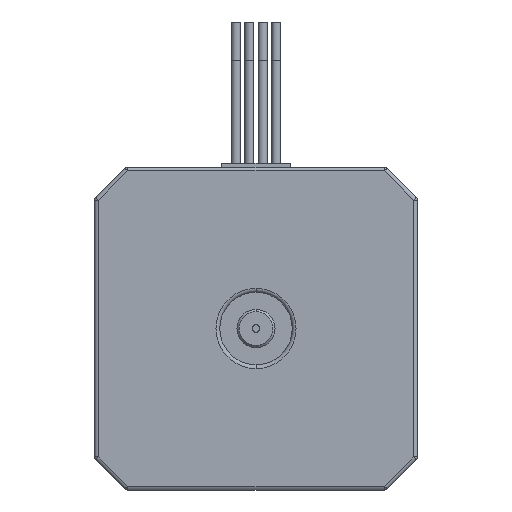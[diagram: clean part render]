
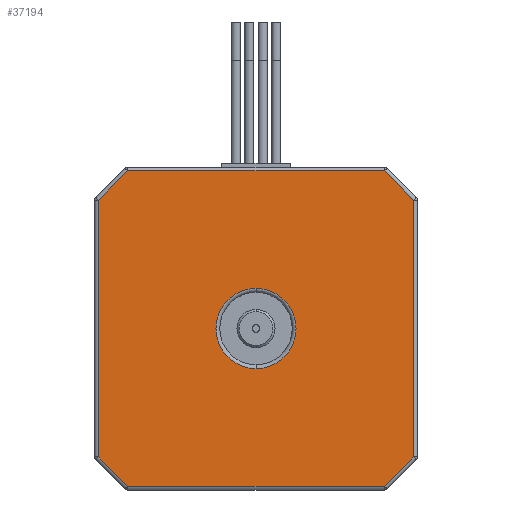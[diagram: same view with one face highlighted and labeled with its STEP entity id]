
A CAD part, front view. The second image highlights one B-rep face of the part: STEP entity #37194.
In plain terms, the highlighted planar face has unit normal (0, -1, 0).
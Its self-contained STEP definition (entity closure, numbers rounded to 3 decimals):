
#636 = VERTEX_POINT ( 'NONE', #35869 ) ;
#1260 = EDGE_CURVE ( 'NONE', #11182, #39394, #19342, .T. ) ;
#1427 = CARTESIAN_POINT ( 'NONE',  ( 20.65, 0., 17.034 ) ) ;
#2048 = CARTESIAN_POINT ( 'NONE',  ( -16.827, 0., -20.65 ) ) ;
#2157 = VERTEX_POINT ( 'NONE', #6656 ) ;
#2556 = DIRECTION ( 'NONE',  ( 0., 0., -1. ) ) ;
#2612 = DIRECTION ( 'NONE',  ( 0., 1., 0. ) ) ;
#2687 = EDGE_CURVE ( 'NONE', #35914, #18129, #23053, .T. ) ;
#2829 = DIRECTION ( 'NONE',  ( 0., 0., 1. ) ) ;
#2898 = LINE ( 'NONE', #12767, #20518 ) ;
#3031 = CARTESIAN_POINT ( 'NONE',  ( 0., 0., 20.65 ) ) ;
#4760 = CARTESIAN_POINT ( 'NONE',  ( 16.68, 0., 20.796 ) ) ;
#5192 = DIRECTION ( 'NONE',  ( -0.707, 0., 0.707 ) ) ;
#5354 = FACE_OUTER_BOUND ( 'NONE', #24848, .T. ) ;
#5749 = DIRECTION ( 'NONE',  ( 0., 1., 0. ) ) ;
#6270 = CIRCLE ( 'NONE', #12968, 5.25 ) ;
#6602 = VECTOR ( 'NONE', #5192, 1000. ) ;
#6656 = CARTESIAN_POINT ( 'NONE',  ( 16.827, 0., 20.65 ) ) ;
#6959 = CARTESIAN_POINT ( 'NONE',  ( -20.65, 0., 16.827 ) ) ;
#7164 = EDGE_LOOP ( 'NONE', ( #8519, #39343 ) ) ;
#7895 = ORIENTED_EDGE ( 'NONE', *, *, #1260, .T. ) ;
#8114 = LINE ( 'NONE', #4760, #6602 ) ;
#8519 = ORIENTED_EDGE ( 'NONE', *, *, #25021, .T. ) ;
#9673 = CARTESIAN_POINT ( 'NONE',  ( 20.65, 0., 16.827 ) ) ;
#9915 = DIRECTION ( 'NONE',  ( 0.707, 0., 0.707 ) ) ;
#9944 = EDGE_CURVE ( 'NONE', #40689, #30558, #19130, .T. ) ;
#11182 = VERTEX_POINT ( 'NONE', #2048 ) ;
#11473 = VECTOR ( 'NONE', #41062, 1000. ) ;
#12767 = CARTESIAN_POINT ( 'NONE',  ( -16.68, 0., -20.796 ) ) ;
#12779 = VERTEX_POINT ( 'NONE', #21594 ) ;
#12968 = AXIS2_PLACEMENT_3D ( 'NONE', #27960, #2612, #34429 ) ;
#13063 = LINE ( 'NONE', #22291, #18827 ) ;
#13107 = ORIENTED_EDGE ( 'NONE', *, *, #2687, .T. ) ;
#13108 = CARTESIAN_POINT ( 'NONE',  ( 16.827, 0., -20.65 ) ) ;
#13173 = EDGE_CURVE ( 'NONE', #18129, #2157, #8114, .T. ) ;
#13201 = LINE ( 'NONE', #31997, #34862 ) ;
#13632 = DIRECTION ( 'NONE',  ( -0.707, 0., -0.707 ) ) ;
#13861 = ORIENTED_EDGE ( 'NONE', *, *, #9944, .T. ) ;
#14479 = CARTESIAN_POINT ( 'NONE',  ( -16.827, 0., 20.65 ) ) ;
#14841 = PLANE ( 'NONE',  #15262 ) ;
#15262 = AXIS2_PLACEMENT_3D ( 'NONE', #40699, #21922, #2829 ) ;
#15632 = CARTESIAN_POINT ( 'NONE',  ( 17.034, 0., -20.65 ) ) ;
#15871 = LINE ( 'NONE', #3031, #38928 ) ;
#16005 = CARTESIAN_POINT ( 'NONE',  ( -20.65, 0., 0. ) ) ;
#18129 = VERTEX_POINT ( 'NONE', #9673 ) ;
#18665 = ORIENTED_EDGE ( 'NONE', *, *, #33683, .T. ) ;
#18827 = VECTOR ( 'NONE', #9915, 1000. ) ;
#19130 = LINE ( 'NONE', #16005, #32146 ) ;
#19323 = ORIENTED_EDGE ( 'NONE', *, *, #13173, .T. ) ;
#19342 = LINE ( 'NONE', #15632, #11473 ) ;
#20236 = AXIS2_PLACEMENT_3D ( 'NONE', #31468, #5749, #22707 ) ;
#20518 = VECTOR ( 'NONE', #35542, 1000. ) ;
#21201 = ORIENTED_EDGE ( 'NONE', *, *, #22400, .T. ) ;
#21594 = CARTESIAN_POINT ( 'NONE',  ( 0., 0., 5.25 ) ) ;
#21922 = DIRECTION ( 'NONE',  ( 0., 1., 0. ) ) ;
#22291 = CARTESIAN_POINT ( 'NONE',  ( 20.796, 0., -16.68 ) ) ;
#22299 = CARTESIAN_POINT ( 'NONE',  ( -20.65, 0., -16.827 ) ) ;
#22400 = EDGE_CURVE ( 'NONE', #39394, #35914, #13063, .T. ) ;
#22707 = DIRECTION ( 'NONE',  ( 0., 0., 1. ) ) ;
#23053 = LINE ( 'NONE', #1427, #24408 ) ;
#23300 = EDGE_CURVE ( 'NONE', #636, #12779, #34246, .T. ) ;
#23444 = DIRECTION ( 'NONE',  ( 0., 0., 1. ) ) ;
#24408 = VECTOR ( 'NONE', #23444, 1000. ) ;
#24668 = ORIENTED_EDGE ( 'NONE', *, *, #35212, .T. ) ;
#24848 = EDGE_LOOP ( 'NONE', ( #19323, #24668, #18665, #13861, #33114, #7895, #21201, #13107 ) ) ;
#25021 = EDGE_CURVE ( 'NONE', #12779, #636, #6270, .T. ) ;
#25469 = DIRECTION ( 'NONE',  ( -1., 0., 0. ) ) ;
#26627 = EDGE_CURVE ( 'NONE', #30558, #11182, #2898, .T. ) ;
#27960 = CARTESIAN_POINT ( 'NONE',  ( 0., 0., 0. ) ) ;
#30558 = VERTEX_POINT ( 'NONE', #22299 ) ;
#31468 = CARTESIAN_POINT ( 'NONE',  ( 0., 0., 0. ) ) ;
#31489 = FACE_BOUND ( 'NONE', #7164, .T. ) ;
#31997 = CARTESIAN_POINT ( 'NONE',  ( -20.796, 0., 16.68 ) ) ;
#32146 = VECTOR ( 'NONE', #2556, 1000. ) ;
#33114 = ORIENTED_EDGE ( 'NONE', *, *, #26627, .T. ) ;
#33144 = CARTESIAN_POINT ( 'NONE',  ( 20.65, 0., -16.827 ) ) ;
#33683 = EDGE_CURVE ( 'NONE', #34757, #40689, #13201, .T. ) ;
#34246 = CIRCLE ( 'NONE', #20236, 5.25 ) ;
#34429 = DIRECTION ( 'NONE',  ( 0., 0., 1. ) ) ;
#34757 = VERTEX_POINT ( 'NONE', #14479 ) ;
#34862 = VECTOR ( 'NONE', #13632, 1000. ) ;
#35212 = EDGE_CURVE ( 'NONE', #2157, #34757, #15871, .T. ) ;
#35542 = DIRECTION ( 'NONE',  ( 0.707, 0., -0.707 ) ) ;
#35869 = CARTESIAN_POINT ( 'NONE',  ( 0., 0., -5.25 ) ) ;
#35914 = VERTEX_POINT ( 'NONE', #33144 ) ;
#37194 = ADVANCED_FACE ( 'NONE', ( #5354, #31489 ), #14841, .F. ) ;
#38928 = VECTOR ( 'NONE', #25469, 1000. ) ;
#39343 = ORIENTED_EDGE ( 'NONE', *, *, #23300, .T. ) ;
#39394 = VERTEX_POINT ( 'NONE', #13108 ) ;
#40689 = VERTEX_POINT ( 'NONE', #6959 ) ;
#40699 = CARTESIAN_POINT ( 'NONE',  ( 0., 0., 0. ) ) ;
#41062 = DIRECTION ( 'NONE',  ( 1., 0., 0. ) ) ;
